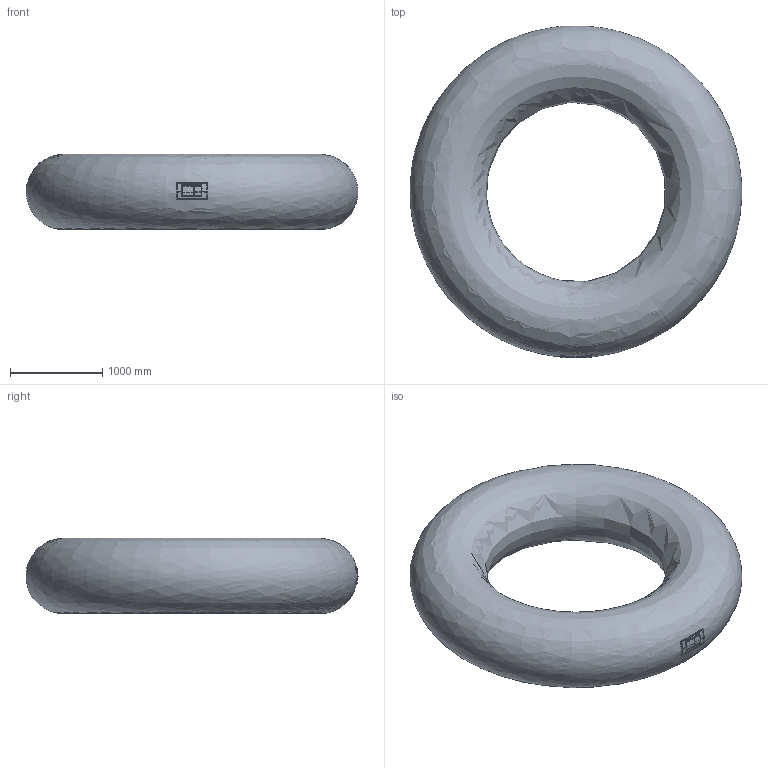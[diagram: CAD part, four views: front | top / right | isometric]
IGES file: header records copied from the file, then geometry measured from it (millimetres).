
Start section: Data from XPlus IGES,  Spatial Corp. Copyright (c) 1999-2004
Global section: file name: 115899.igs; native system:  By Spatial Corp.; preprocessor: XPlus ACIS/IGES 3.0; author: Noname; organization: Noname; date: 20210601.110952; units: millimetre
Bounding box: 3594.91 x 3598.01 x 819.45 mm (x, y, z)
Surface area: 45034185.7 mm2 (no closed solid volume)
Topology: 0 solids, 0 shells, 1025 faces, 6184 edges, 6181 vertices
Faces by surface type: extrusion 642, revolution 379, bspline 4
